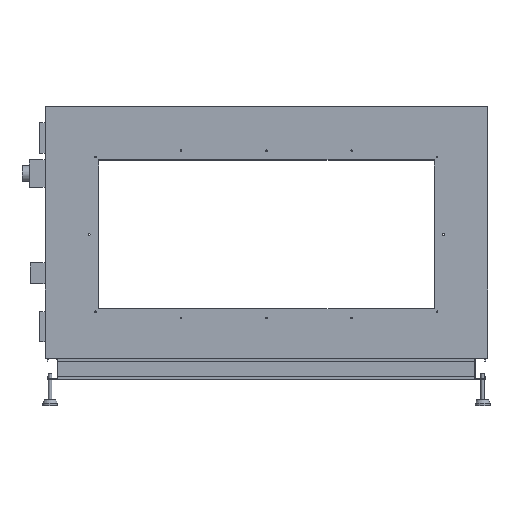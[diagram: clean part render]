
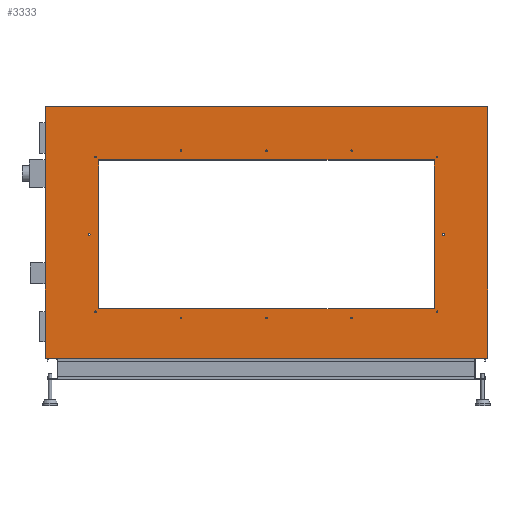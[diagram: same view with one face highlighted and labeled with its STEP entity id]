
A CAD part, top view. The second image highlights one B-rep face of the part: STEP entity #3333.
In plain terms, the highlighted planar face has unit normal (0, 0, 1).
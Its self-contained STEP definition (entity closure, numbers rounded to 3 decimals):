
#23=CIRCLE('',#3381,4.);
#27=CIRCLE('',#3387,4.);
#31=CIRCLE('',#3393,4.);
#35=CIRCLE('',#3399,4.);
#39=CIRCLE('',#3405,4.);
#43=CIRCLE('',#3411,4.);
#47=CIRCLE('',#3417,4.);
#51=CIRCLE('',#3423,4.);
#55=CIRCLE('',#3429,4.);
#59=CIRCLE('',#3435,4.);
#63=CIRCLE('',#3441,4.);
#67=CIRCLE('',#3447,4.);
#264=FACE_BOUND('',#687,.T.);
#265=FACE_BOUND('',#688,.T.);
#266=FACE_BOUND('',#689,.T.);
#267=FACE_BOUND('',#690,.T.);
#268=FACE_BOUND('',#691,.T.);
#269=FACE_BOUND('',#692,.T.);
#270=FACE_BOUND('',#693,.T.);
#271=FACE_BOUND('',#694,.T.);
#272=FACE_BOUND('',#695,.T.);
#273=FACE_BOUND('',#696,.T.);
#274=FACE_BOUND('',#697,.T.);
#275=FACE_BOUND('',#698,.T.);
#276=FACE_BOUND('',#699,.T.);
#446=FACE_OUTER_BOUND('',#686,.T.);
#686=EDGE_LOOP('',(#2901,#2902,#2903,#2904));
#687=EDGE_LOOP('',(#2905));
#688=EDGE_LOOP('',(#2906));
#689=EDGE_LOOP('',(#2907));
#690=EDGE_LOOP('',(#2908));
#691=EDGE_LOOP('',(#2909));
#692=EDGE_LOOP('',(#2910));
#693=EDGE_LOOP('',(#2911));
#694=EDGE_LOOP('',(#2912));
#695=EDGE_LOOP('',(#2913));
#696=EDGE_LOOP('',(#2914));
#697=EDGE_LOOP('',(#2915));
#698=EDGE_LOOP('',(#2916));
#699=EDGE_LOOP('',(#2917,#2918,#2919,#2920));
#793=LINE('',#4926,#1114);
#799=LINE('',#4937,#1120);
#803=LINE('',#4945,#1124);
#804=LINE('',#4947,#1125);
#986=LINE('',#5504,#1307);
#994=LINE('',#5519,#1315);
#995=LINE('',#5521,#1316);
#996=LINE('',#5522,#1317);
#1114=VECTOR('',#3939,10.);
#1120=VECTOR('',#3949,10.);
#1124=VECTOR('',#3957,10.);
#1125=VECTOR('',#3960,10.);
#1307=VECTOR('',#4576,10.);
#1315=VECTOR('',#4588,10.);
#1316=VECTOR('',#4591,10.);
#1317=VECTOR('',#4592,10.);
#1390=VERTEX_POINT('',#4737);
#1394=VERTEX_POINT('',#4749);
#1398=VERTEX_POINT('',#4761);
#1402=VERTEX_POINT('',#4773);
#1406=VERTEX_POINT('',#4785);
#1410=VERTEX_POINT('',#4797);
#1414=VERTEX_POINT('',#4809);
#1418=VERTEX_POINT('',#4821);
#1422=VERTEX_POINT('',#4833);
#1426=VERTEX_POINT('',#4845);
#1430=VERTEX_POINT('',#4857);
#1434=VERTEX_POINT('',#4869);
#1454=VERTEX_POINT('',#4923);
#1455=VERTEX_POINT('',#4925);
#1458=VERTEX_POINT('',#4935);
#1460=VERTEX_POINT('',#4943);
#1617=VERTEX_POINT('',#5501);
#1618=VERTEX_POINT('',#5503);
#1622=VERTEX_POINT('',#5515);
#1623=VERTEX_POINT('',#5517);
#1680=EDGE_CURVE('',#1390,#1390,#23,.T.);
#1686=EDGE_CURVE('',#1394,#1394,#27,.T.);
#1692=EDGE_CURVE('',#1398,#1398,#31,.T.);
#1698=EDGE_CURVE('',#1402,#1402,#35,.T.);
#1704=EDGE_CURVE('',#1406,#1406,#39,.T.);
#1710=EDGE_CURVE('',#1410,#1410,#43,.T.);
#1716=EDGE_CURVE('',#1414,#1414,#47,.T.);
#1722=EDGE_CURVE('',#1418,#1418,#51,.T.);
#1728=EDGE_CURVE('',#1422,#1422,#55,.T.);
#1734=EDGE_CURVE('',#1426,#1426,#59,.T.);
#1740=EDGE_CURVE('',#1430,#1430,#63,.T.);
#1746=EDGE_CURVE('',#1434,#1434,#67,.T.);
#1773=EDGE_CURVE('',#1455,#1454,#793,.T.);
#1779=EDGE_CURVE('',#1454,#1458,#799,.T.);
#1783=EDGE_CURVE('',#1458,#1460,#803,.T.);
#1784=EDGE_CURVE('',#1460,#1455,#804,.T.);
#2056=EDGE_CURVE('',#1617,#1618,#986,.T.);
#2064=EDGE_CURVE('',#1622,#1623,#994,.T.);
#2065=EDGE_CURVE('',#1617,#1622,#995,.T.);
#2066=EDGE_CURVE('',#1618,#1623,#996,.T.);
#2901=ORIENTED_EDGE('',*,*,#2065,.T.);
#2902=ORIENTED_EDGE('',*,*,#2064,.T.);
#2903=ORIENTED_EDGE('',*,*,#2066,.F.);
#2904=ORIENTED_EDGE('',*,*,#2056,.F.);
#2905=ORIENTED_EDGE('',*,*,#1680,.T.);
#2906=ORIENTED_EDGE('',*,*,#1686,.T.);
#2907=ORIENTED_EDGE('',*,*,#1692,.T.);
#2908=ORIENTED_EDGE('',*,*,#1698,.T.);
#2909=ORIENTED_EDGE('',*,*,#1704,.T.);
#2910=ORIENTED_EDGE('',*,*,#1710,.T.);
#2911=ORIENTED_EDGE('',*,*,#1716,.T.);
#2912=ORIENTED_EDGE('',*,*,#1722,.T.);
#2913=ORIENTED_EDGE('',*,*,#1728,.T.);
#2914=ORIENTED_EDGE('',*,*,#1734,.T.);
#2915=ORIENTED_EDGE('',*,*,#1740,.T.);
#2916=ORIENTED_EDGE('',*,*,#1746,.T.);
#2917=ORIENTED_EDGE('',*,*,#1779,.T.);
#2918=ORIENTED_EDGE('',*,*,#1783,.T.);
#2919=ORIENTED_EDGE('',*,*,#1784,.T.);
#2920=ORIENTED_EDGE('',*,*,#1773,.T.);
#3143=PLANE('',#3683);
#3333=ADVANCED_FACE('',(#446,#264,#265,#266,#267,#268,#269,#270,#271,#272,
#273,#274,#275,#276),#3143,.T.);
#3381=AXIS2_PLACEMENT_3D('',#4738,#3738,#3739);
#3387=AXIS2_PLACEMENT_3D('',#4750,#3752,#3753);
#3393=AXIS2_PLACEMENT_3D('',#4762,#3766,#3767);
#3399=AXIS2_PLACEMENT_3D('',#4774,#3780,#3781);
#3405=AXIS2_PLACEMENT_3D('',#4786,#3794,#3795);
#3411=AXIS2_PLACEMENT_3D('',#4798,#3808,#3809);
#3417=AXIS2_PLACEMENT_3D('',#4810,#3822,#3823);
#3423=AXIS2_PLACEMENT_3D('',#4822,#3836,#3837);
#3429=AXIS2_PLACEMENT_3D('',#4834,#3850,#3851);
#3435=AXIS2_PLACEMENT_3D('',#4846,#3864,#3865);
#3441=AXIS2_PLACEMENT_3D('',#4858,#3878,#3879);
#3447=AXIS2_PLACEMENT_3D('',#4870,#3892,#3893);
#3683=AXIS2_PLACEMENT_3D('',#5520,#4589,#4590);
#3738=DIRECTION('center_axis',(0.,0.,-1.));
#3739=DIRECTION('ref_axis',(-1.,0.,0.));
#3752=DIRECTION('center_axis',(0.,0.,-1.));
#3753=DIRECTION('ref_axis',(-1.,0.,0.));
#3766=DIRECTION('center_axis',(0.,0.,-1.));
#3767=DIRECTION('ref_axis',(-1.,0.,0.));
#3780=DIRECTION('center_axis',(0.,0.,-1.));
#3781=DIRECTION('ref_axis',(-1.,0.,0.));
#3794=DIRECTION('center_axis',(0.,0.,-1.));
#3795=DIRECTION('ref_axis',(-1.,0.,0.));
#3808=DIRECTION('center_axis',(0.,0.,-1.));
#3809=DIRECTION('ref_axis',(-1.,0.,0.));
#3822=DIRECTION('center_axis',(0.,0.,-1.));
#3823=DIRECTION('ref_axis',(-1.,0.,0.));
#3836=DIRECTION('center_axis',(0.,0.,-1.));
#3837=DIRECTION('ref_axis',(-1.,0.,0.));
#3850=DIRECTION('center_axis',(0.,0.,-1.));
#3851=DIRECTION('ref_axis',(-1.,0.,0.));
#3864=DIRECTION('center_axis',(0.,0.,-1.));
#3865=DIRECTION('ref_axis',(-1.,0.,0.));
#3878=DIRECTION('center_axis',(0.,0.,-1.));
#3879=DIRECTION('ref_axis',(-1.,0.,0.));
#3892=DIRECTION('center_axis',(0.,0.,-1.));
#3893=DIRECTION('ref_axis',(-1.,0.,0.));
#3939=DIRECTION('',(-1.,0.,0.));
#3949=DIRECTION('',(0.,1.,0.));
#3957=DIRECTION('',(1.,0.,0.));
#3960=DIRECTION('',(0.,-1.,0.));
#4576=DIRECTION('',(1.,0.,0.));
#4588=DIRECTION('',(1.,0.,0.));
#4589=DIRECTION('center_axis',(0.,0.,1.));
#4590=DIRECTION('ref_axis',(0.,-1.,0.));
#4591=DIRECTION('',(0.,-1.,0.));
#4592=DIRECTION('',(0.,-1.,0.));
#4737=CARTESIAN_POINT('',(1059.,-409.,200.));
#4738=CARTESIAN_POINT('Origin',(1055.,-409.,200.));
#4749=CARTESIAN_POINT('',(1873.,-379.,200.));
#4750=CARTESIAN_POINT('Origin',(1869.,-379.,200.));
#4761=CARTESIAN_POINT('',(1873.,359.,200.));
#4762=CARTESIAN_POINT('Origin',(1869.,359.,200.));
#4773=CARTESIAN_POINT('',(1903.,-10.,200.));
#4774=CARTESIAN_POINT('Origin',(1899.,-10.,200.));
#4785=CARTESIAN_POINT('',(651.9,389.,200.));
#4786=CARTESIAN_POINT('Origin',(647.9,389.,200.));
#4797=CARTESIAN_POINT('',(1466.1,389.,200.));
#4798=CARTESIAN_POINT('Origin',(1462.1,389.,200.));
#4809=CARTESIAN_POINT('',(1059.,389.,200.));
#4810=CARTESIAN_POINT('Origin',(1055.,389.,200.));
#4821=CARTESIAN_POINT('',(215.,-10.,200.));
#4822=CARTESIAN_POINT('Origin',(211.,-10.,200.));
#4833=CARTESIAN_POINT('',(245.,359.,200.));
#4834=CARTESIAN_POINT('Origin',(241.,359.,200.));
#4845=CARTESIAN_POINT('',(245.,-379.,200.));
#4846=CARTESIAN_POINT('Origin',(241.,-379.,200.));
#4857=CARTESIAN_POINT('',(1466.1,-409.,200.));
#4858=CARTESIAN_POINT('Origin',(1462.1,-409.,200.));
#4869=CARTESIAN_POINT('',(651.9,-409.,200.));
#4870=CARTESIAN_POINT('Origin',(647.9,-409.,200.));
#4923=CARTESIAN_POINT('',(255.,-365.,200.));
#4925=CARTESIAN_POINT('',(1855.,-365.,200.));
#4926=CARTESIAN_POINT('',(927.5,-365.,200.));
#4935=CARTESIAN_POINT('',(255.,345.,200.));
#4937=CARTESIAN_POINT('',(255.,117.5,200.));
#4943=CARTESIAN_POINT('',(1855.,345.,200.));
#4945=CARTESIAN_POINT('',(127.5,345.,200.));
#4947=CARTESIAN_POINT('',(1855.,472.5,200.));
#5501=CARTESIAN_POINT('',(0.,600.,200.));
#5503=CARTESIAN_POINT('',(2110.,600.,200.));
#5504=CARTESIAN_POINT('',(0.,600.,200.));
#5515=CARTESIAN_POINT('',(0.,-600.,200.));
#5517=CARTESIAN_POINT('',(2110.,-600.,200.));
#5519=CARTESIAN_POINT('',(0.,-600.,200.));
#5520=CARTESIAN_POINT('Origin',(0.,600.,200.));
#5521=CARTESIAN_POINT('',(0.,600.,200.));
#5522=CARTESIAN_POINT('',(2110.,600.,200.));
